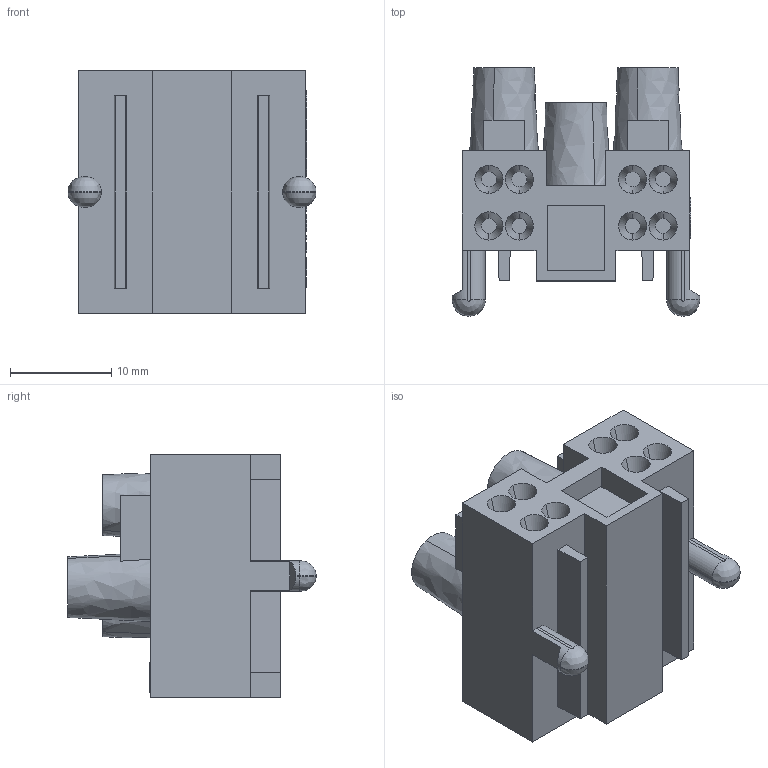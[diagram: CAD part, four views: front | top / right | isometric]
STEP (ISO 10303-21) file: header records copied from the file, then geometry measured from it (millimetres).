
FILE_DESCRIPTION((' '),'1');
FILE_NAME('007YQ01Y06.stp','2010-03-04 T14:21:11',(' '),(' '),'STEP Interface v1.0 by CT CoreTechnologie','3D_Evolution v1.0 by CT CoreTechnologie',' ');
FILE_SCHEMA(('CONFIG_CONTROL_DESIGN'));
Length unit declared in the file: millimetre
Products named in the file (1): 007YQ01Y06
Bounding box: 24.5 x 24.55 x 24 mm (x, y, z)
Volume: 6101.9 mm3; surface area: 4173.7 mm2
Topology: 1 solids, 1 shells, 345 faces, 930 edges, 641 vertices
Faces by surface type: plane 241, bspline 55, cylinder 49
Entity records: 15306 total; most frequent: CARTESIAN_POINT 3412, ORIENTED_EDGE 1860, DIRECTION 1764, EDGE_CURVE 930, VERTEX_POINT 641, VECTOR 626, LINE 626, AXIS2_PLACEMENT_3D 569
